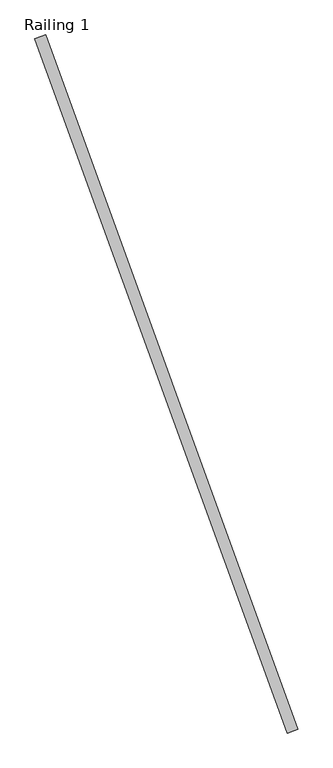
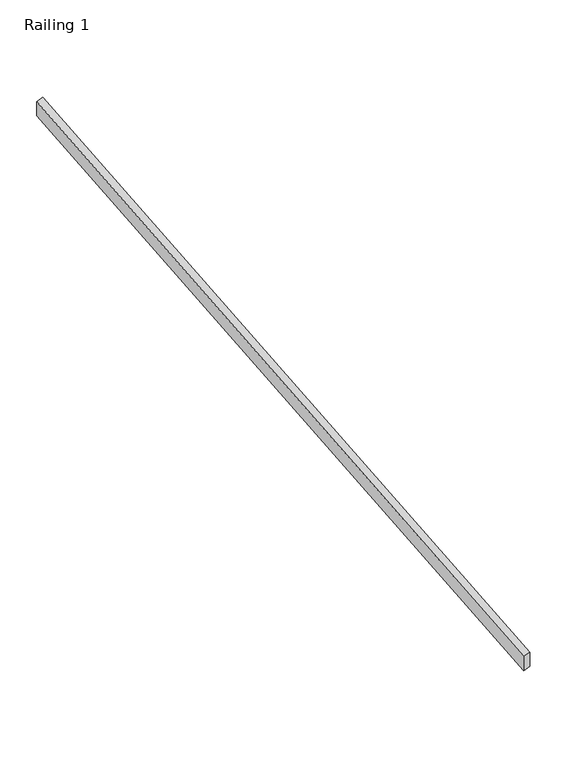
"""IFC4 building model written with IfcOpenShell, lengths in millimetres: railing geometry, Railing 1."""

from ifc_helpers import new_model, si_unit, frame, origin, place, context, project, spatial, polyline, outline, extrude, source, transform, mapped, element, save


def railing_1_88f2d2fd(model_context):
    return source(origin(), model_context, "Body", "SweptSolid", [
        extrude(outline(polyline([(-46.8923077, -76.1999999), (0.0, 0.0), (3816.0843807, 0.0), (3769.192073, -76.2), (-46.8923077, -76.1999999)])), frame((18246.2355383, 23945.1321804, 5153.8461538), z_axis=(0.9396926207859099, 0.34202014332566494, 0.0), x_axis=(-0.2912842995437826, 0.8002970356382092, 0.5240974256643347)), (0.0, 0.0, 1.0), 50.8),
    ])


if __name__ == "__main__":
    model = new_model("IFC4")
    model_context = context("Model", 3, world=origin())
    ifc_project = project(units=[si_unit("LENGTHUNIT", "METRE", prefix="MILLI")], contexts=[model_context])
    site = spatial("IfcSite", under=ifc_project)
    building = spatial("IfcBuilding", under=site)
    placement = place(None, origin())
    railing_1_shape = railing_1_88f2d2fd(model_context)
    element("IfcRailing", 1, ObjectType="Railing 1", at=placement, inside=building, context=model_context, shape_type="MappedRepresentation", body=[
        mapped(railing_1_shape, transform((0.0, 0.0, 0.0), x_axis=(1.0, 0.0, 0.0), y_axis=(0.0, 1.0, 0.0), z_axis=(0.0, 0.0, 1.0))),
    ])
    save(model, "model.ifc")
